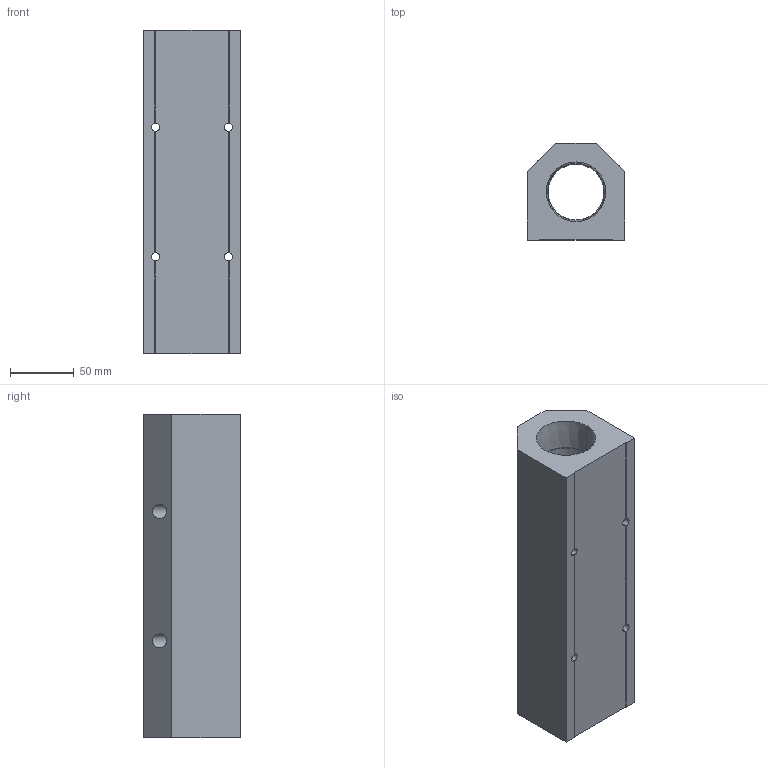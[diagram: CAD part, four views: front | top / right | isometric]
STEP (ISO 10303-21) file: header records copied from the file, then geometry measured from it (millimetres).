
FILE_DESCRIPTION (( 'STEP AP214' ), '1' );
FILE_NAME ('ALM4C-N4N24-254B.step', '2022-02-07T07:46:17', ( '' ), ( '' ), 'SwSTEP 2.0', 'SolidWorks 2020', '' );
FILE_SCHEMA (( 'AUTOMOTIVE_DESIGN' ));
Length unit declared in the file: millimetre
Products named in the file (1): ALM4C-N4N24-254B
Bounding box: 76.2 x 76.2 x 254 mm (x, y, z)
Volume: 930793.6 mm3; surface area: 120657.4 mm2
Topology: 1 solids, 1 shells, 297 faces, 784 edges, 520 vertices
Faces by surface type: plane 223, bspline 44, cylinder 18, cone 12
Entity records: 15223 total; most frequent: CARTESIAN_POINT 5370, ORIENTED_EDGE 1568, DIRECTION 1224, EDGE_CURVE 784, VECTOR 628, LINE 628, VERTEX_POINT 520, EDGE_LOOP 346
